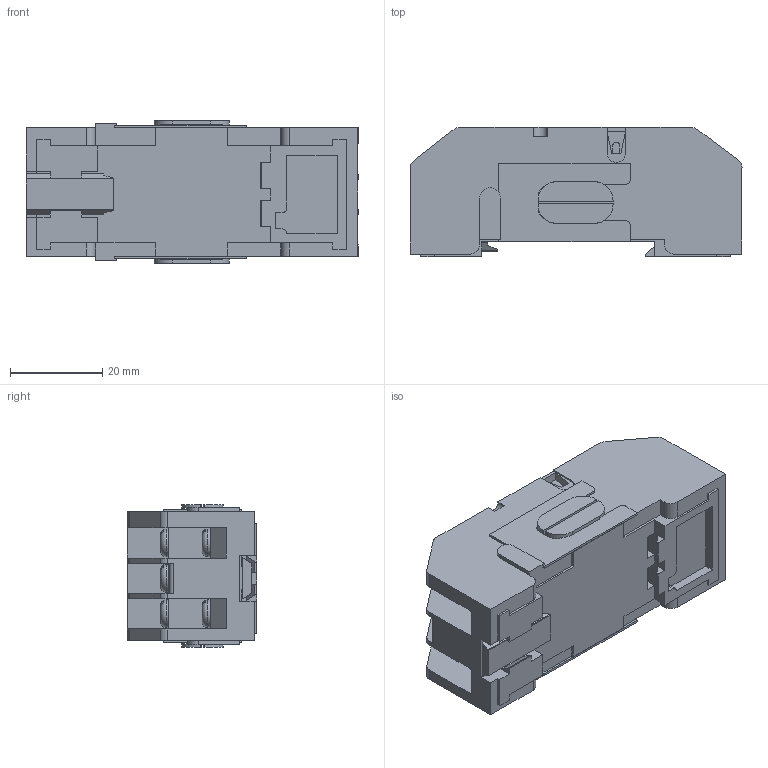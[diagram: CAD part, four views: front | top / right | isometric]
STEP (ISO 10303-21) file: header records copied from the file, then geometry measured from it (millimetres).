
FILE_DESCRIPTION(('STEP AP214'), '1');
FILE_NAME('Êîëîäêà ÐÏ21-003 òèï 2', '', ('UNSPECIFIED'), ('UNSPECIFIED'), 'ASCON STEP Converter 1.6', 'ASCON Math Kernel', '');
FILE_SCHEMA(('AUTOMOTIVE_DESIGN { 1 0 10303 214 3 1 1}'));
Length unit declared in the file: millimetre
Assembly tree (17 placements, depth 3):
  (unnamed)
    (unnamed)
    (unnamed)  x11
      (unnamed)
      (unnamed)
    (unnamed)  x2
    (unnamed)
Bounding box: 72.1 x 28.02 x 31 mm (x, y, z)
Volume: 42130.8 mm3; surface area: 17863.9 mm2
Topology: 26 solids, 26 shells, 611 faces, 1551 edges, 1023 vertices
Faces by surface type: plane 505, cylinder 84, torus 11, cone 11
Full cylindrical faces by diameter (mm): 2.85 x11, 3 x11, 6 x11
Entity records: 17104 total; most frequent: CARTESIAN_POINT 2440, ORIENTED_EDGE 2280, DIRECTION 2120, EDGE_CURVE 1140, LINE 1022, VECTOR 1022, VERTEX_POINT 759, AXIS2_PLACEMENT_3D 549
